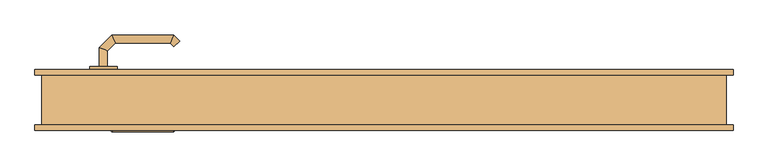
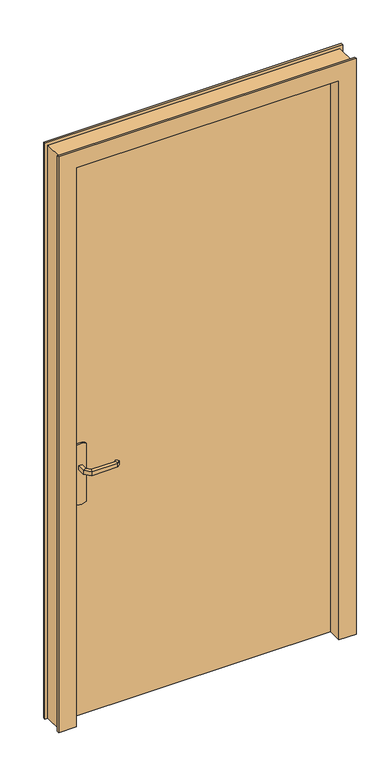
"""IFC4 building model written with IfcOpenShell, lengths in millimetres: door geometry, C&L Int. Simple vantail (dormant variable) : 93x204cm - (90) acoustique."""

from ifc_helpers import new_model, si_unit, point, frame, frame_2d, origin, origin_with_axes, place, context, project, spatial, polyline, circle_curve, ellipse_curve, trimmed, segment, composite_curve, outline, extrude, faceted_brep, source, transform, mapped, element, save
from ifc_brep_helpers import plane_surface, cylinder_surface, advanced_brep


def door_dd4d6bc0(model_context):
    return source(origin(), model_context, "Body", "SolidModel", [
        extrude(outline(composite_curve([segment(trimmed(circle_curve(frame_2d((804.6410162, -410.0)), 40.0), [point((770.0, -430.0))], [point((770.0, -390.0))], False, "CARTESIAN"), True, "CONTINUOUS"), segment(polyline([(770.0, -390.0), (980.0, -390.0)]), True, "CONTINUOUS"), segment(trimmed(circle_curve(frame_2d((945.3589838, -410.0)), 40.0), [point((980.0, -390.0))], [point((980.0, -430.0))], False, "CARTESIAN"), True, "CONTINUOUS"), segment(polyline([(980.0, -430.0), (770.0, -430.0)]), True, "CONTINUOUS")], self_intersect=False)), frame((0.0, 44.5, 0.0), z_axis=(0.0, 1.0, 0.0), x_axis=(0.0, 0.0, 1.0)), (0.0, 0.0, 1.0), 5.0),
        extrude(outline(composite_curve([segment(trimmed(circle_curve(frame_2d((945.3589838, -410.0)), 40.0), [point((980.0, -390.0))], [point((980.0, -430.0))], False, "CARTESIAN"), True, "CONTINUOUS"), segment(polyline([(980.0, -430.0), (770.0, -430.0)]), True, "CONTINUOUS"), segment(trimmed(circle_curve(frame_2d((804.6410162, -410.0)), 40.0), [point((770.0, -430.0))], [point((770.0, -390.0))], False, "CARTESIAN"), True, "CONTINUOUS"), segment(polyline([(770.0, -390.0), (980.0, -390.0)]), True, "CONTINUOUS")], self_intersect=False)), frame((0.0, -0.5, 0.0), z_axis=(0.0, 1.0, 0.0), x_axis=(0.0, 0.0, 1.0)), (0.0, 0.0, 1.0), 5.0),
        advanced_brep(
        [(-416.0, 49.5, 907.0), (-416.0, 49.5, 893.0), (-404.0, 49.5, 893.0), (-404.0, 49.5, 907.0), (-404.0, 72.180388, 907.0), (-416.0, 77.1509507, 907.0), (-404.0, 72.180388, 893.0), (-416.0, 77.1509507, 893.0), (-392.6522273, 83.5281607, 907.0), (-397.62279, 95.5281607, 907.0), (-392.6522273, 83.5281607, 893.0), (-397.62279, 95.5281607, 893.0), (-312.4666408, 83.5281607, 907.0), (-307.496078, 95.5281607, 907.0), (-312.4666408, 83.5281607, 893.0), (-307.496078, 95.5281607, 893.0), (-298.6676509, 86.6997336, 907.0), (-307.1529323, 78.2144522, 907.0), (-307.1529323, 78.2144522, 893.0), (-298.6676509, 86.6997336, 893.0)],
        [
            (0, 1),
            (1, 2, circle_curve(frame((-410.0, 49.5, 913.0457722), z_axis=(0.0, -1.0, 0.0), x_axis=(1.0, 0.0, 0.0)), 20.9244589)),
            (2, 3),
            (3, 0, circle_curve(frame((-410.0, 49.5, 886.9542278), z_axis=(0.0, -1.0, 0.0), x_axis=(1.0, 0.0, 0.0)), 20.9244589)),
            (3, 4),
            (4, 5, ellipse_curve(frame((-410.0, 74.6656693, 886.9542278), z_axis=(-0.3826834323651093, -0.9238795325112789, 0.0), x_axis=(0.9238795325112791, -0.38268343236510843, 0.0)), 22.6484711, 20.9244589)),
            (5, 0),
            (2, 6),
            (6, 4),
            (1, 7),
            (7, 6, ellipse_curve(frame((-410.0, 74.6656693, 913.0457722), z_axis=(-0.3826834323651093, -0.9238795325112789, 0.0), x_axis=(0.9238795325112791, -0.38268343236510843, 0.0)), 22.6484711, 20.9244589)),
            (5, 7),
            (4, 8),
            (8, 9, ellipse_curve(frame((-395.1375086, 89.5281607, 886.9542278), z_axis=(-0.9238795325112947, -0.38268343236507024, 0.0), x_axis=(0.3826834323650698, -0.9238795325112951, 0.0)), 22.6484711, 20.9244589)),
            (9, 5),
            (6, 10),
            (10, 8),
            (7, 11),
            (11, 10, ellipse_curve(frame((-395.1375086, 89.5281607, 913.0457722), z_axis=(-0.9238795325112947, -0.38268343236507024, 0.0), x_axis=(0.3826834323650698, -0.9238795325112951, 0.0)), 22.6484711, 20.9244589)),
            (9, 11),
            (8, 12),
            (12, 13, ellipse_curve(frame((-309.9813594, 89.5281607, 886.9542278), z_axis=(-0.9238795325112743, 0.3826834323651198, 0.0), x_axis=(-0.38268343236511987, -0.9238795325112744, 0.0)), 22.6484711, 20.9244589)),
            (13, 9),
            (10, 14),
            (14, 12),
            (11, 15),
            (15, 14, ellipse_curve(frame((-309.9813594, 89.5281607, 913.0457722), z_axis=(-0.9238795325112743, 0.3826834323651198, 0.0), x_axis=(-0.38268343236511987, -0.9238795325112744, 0.0)), 22.6484711, 20.9244589)),
            (13, 15),
            (16, 17, circle_curve(frame((-302.9102916, 82.4570929, 886.9542278), z_axis=(0.7071067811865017, -0.7071067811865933, 0.0), x_axis=(-0.7071067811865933, -0.7071067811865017, 0.0)), 20.9244589)),
            (17, 18),
            (18, 19, circle_curve(frame((-302.9102916, 82.4570929, 913.0457722), z_axis=(0.7071067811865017, -0.7071067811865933, 0.0), x_axis=(-0.7071067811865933, -0.7071067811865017, 0.0)), 20.9244589)),
            (19, 16),
            (12, 17),
            (16, 13),
            (14, 18),
            (15, 19),
        ],
        [
            plane_surface(frame((-419.2195445, 49.5, 900.0), z_axis=(0.0, -1.0, 0.0), x_axis=(0.0, 0.0, -1.0))),
            cylinder_surface(frame((-410.0, 49.5, 886.9542278), z_axis=(0.0, -1.0, 0.0), x_axis=(1.0, 0.0, 0.0)), 20.9244589),
            plane_surface(frame((-404.0, 49.5, 907.0), z_axis=(1.0, 0.0, 0.0), x_axis=(0.0, 1.0, 0.0))),
            cylinder_surface(frame((-410.0, 49.5, 913.0457722), z_axis=(0.0, -1.0, 0.0), x_axis=(1.0, 0.0, 0.0)), 20.9244589),
            plane_surface(frame((-416.0, 49.5, 893.0), z_axis=(-1.0, 0.0, 0.0), x_axis=(0.0, 1.0, 0.0))),
            cylinder_surface(frame((-410.0, 74.6656693, 886.9542278), z_axis=(-0.7071067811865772, -0.7071067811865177, 0.0), x_axis=(0.7071067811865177, -0.7071067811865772, 0.0)), 20.9244589),
            plane_surface(frame((-404.0, 72.180388, 907.0), z_axis=(0.7071067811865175, -0.7071067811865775, 0.0), x_axis=(0.7071067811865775, 0.7071067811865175, 0.0))),
            cylinder_surface(frame((-410.0, 74.6656693, 913.0457722), z_axis=(-0.7071067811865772, -0.7071067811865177, 0.0), x_axis=(0.7071067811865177, -0.7071067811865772, 0.0)), 20.9244589),
            plane_surface(frame((-416.0, 77.1509507, 893.0), z_axis=(-0.7071067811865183, 0.7071067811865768, 0.0), x_axis=(0.7071067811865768, 0.7071067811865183, 0.0))),
            cylinder_surface(frame((-395.1375086, 89.5281607, 886.9542278), z_axis=(-1.0, 0.0, 0.0), x_axis=(0.0, -1.0, 0.0)), 20.9244589),
            plane_surface(frame((-392.6522273, 83.5281607, 907.0), z_axis=(0.0, -1.0, 0.0), x_axis=(1.0, 0.0, 0.0))),
            cylinder_surface(frame((-395.1375086, 89.5281607, 913.0457722), z_axis=(-1.0, 0.0, 0.0), x_axis=(0.0, -1.0, 0.0)), 20.9244589),
            plane_surface(frame((-397.62279, 95.5281607, 893.0), z_axis=(0.0, 1.0, 0.0), x_axis=(1.0, 0.0, 0.0))),
            plane_surface(frame((-302.9102916, 82.4570929, 909.2195445), z_axis=(0.7071067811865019, -0.7071067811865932, 0.0), x_axis=(0.7071067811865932, 0.7071067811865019, 0.0))),
            cylinder_surface(frame((-309.9813594, 89.5281607, 886.9542278), z_axis=(-0.7071067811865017, 0.7071067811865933, 0.0), x_axis=(-0.7071067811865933, -0.7071067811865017, 0.0)), 20.9244589),
            plane_surface(frame((-312.4666408, 83.5281607, 907.0), z_axis=(-0.7071067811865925, -0.7071067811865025, 0.0), x_axis=(0.7071067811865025, -0.7071067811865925, 0.0))),
            cylinder_surface(frame((-309.9813594, 89.5281607, 913.0457722), z_axis=(-0.7071067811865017, 0.7071067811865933, 0.0), x_axis=(-0.7071067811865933, -0.7071067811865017, 0.0)), 20.9244589),
            plane_surface(frame((-307.496078, 95.5281607, 893.0), z_axis=(0.707106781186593, 0.7071067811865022, 0.0), x_axis=(0.7071067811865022, -0.707106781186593, 0.0))),
        ],
        [
            (0, [[1, 2, 3, 4]]),
            (1, [[5, 6, 7, -4]]),
            (2, [[8, 9, -5, -3]]),
            (3, [[10, 11, -8, -2]]),
            (4, [[-7, 12, -10, -1]]),
            (5, [[13, 14, 15, -6]]),
            (6, [[16, 17, -13, -9]]),
            (7, [[18, 19, -16, -11]]),
            (8, [[-15, 20, -18, -12]]),
            (9, [[21, 22, 23, -14]]),
            (10, [[24, 25, -21, -17]]),
            (11, [[26, 27, -24, -19]]),
            (12, [[-23, 28, -26, -20]]),
            (13, [[29, 30, 31, 32]]),
            (14, [[33, -29, 34, -22]]),
            (15, [[35, -30, -33, -25]]),
            (16, [[36, -31, -35, -27]]),
            (17, [[-34, -32, -36, -28]]),
        ],
    ),
        advanced_brep(
        [(-404.0, -0.5, 893.0), (-416.0, -0.5, 893.0), (-416.0, -0.5, 907.0), (-404.0, -0.5, 907.0), (-404.0, -22.9852045, 907.0), (-404.0, -22.9852045, 893.0), (-416.0, -27.9557673, 907.0), (-416.0, -27.9557673, 893.0), (-392.5147186, -34.4704859, 907.0), (-392.5147186, -34.4704859, 893.0), (-397.4852814, -46.4704859, 907.0), (-397.4852814, -46.4704859, 893.0), (-312.4394977, -34.4704859, 907.0), (-312.4394977, -34.4704859, 893.0), (-307.468935, -46.4704859, 907.0), (-307.468935, -46.4704859, 893.0), (-307.1257892, -29.1567774, 893.0), (-307.1257892, -29.1567774, 907.0), (-298.6405078, -37.6420588, 907.0), (-298.6405078, -37.6420588, 893.0)],
        [
            (0, 1, circle_curve(frame((-410.0, -0.5, 913.0457722), z_axis=(0.0, 1.0, 0.0), x_axis=(-1.0, 0.0, 0.0)), 20.9244589)),
            (1, 2),
            (2, 3, circle_curve(frame((-410.0, -0.5, 886.9542278), z_axis=(0.0, 1.0, 0.0), x_axis=(-1.0, 0.0, 0.0)), 20.9244589)),
            (3, 0),
            (3, 4),
            (4, 5),
            (5, 0),
            (2, 6),
            (6, 4, ellipse_curve(frame((-410.0, -25.4704859, 886.9542278), z_axis=(-0.3826834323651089, 0.9238795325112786, 0.0), x_axis=(0.9238795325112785, 0.3826834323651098, 0.0)), 22.6484711, 20.9244589)),
            (1, 7),
            (7, 6),
            (5, 7, ellipse_curve(frame((-410.0, -25.4704859, 913.0457722), z_axis=(-0.3826834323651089, 0.9238795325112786, 0.0), x_axis=(0.9238795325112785, 0.3826834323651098, 0.0)), 22.6484711, 20.9244589)),
            (4, 8),
            (8, 9),
            (9, 5),
            (6, 10),
            (10, 8, ellipse_curve(frame((-395.0, -40.4704859, 886.9542278), z_axis=(-0.9238795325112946, 0.38268343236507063, 0.0), x_axis=(0.3826834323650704, 0.9238795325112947, 0.0)), 22.6484711, 20.9244589)),
            (7, 11),
            (11, 10),
            (9, 11, ellipse_curve(frame((-395.0, -40.4704859, 913.0457722), z_axis=(-0.9238795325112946, 0.38268343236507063, 0.0), x_axis=(0.3826834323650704, 0.9238795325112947, 0.0)), 22.6484711, 20.9244589)),
            (8, 12),
            (12, 13),
            (13, 9),
            (10, 14),
            (14, 12, ellipse_curve(frame((-309.9542163, -40.4704859, 886.9542278), z_axis=(-0.9238795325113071, -0.38268343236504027, 0.0), x_axis=(-0.38268343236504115, 0.9238795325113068, 0.0)), 22.6484711, 20.9244589)),
            (11, 15),
            (15, 14),
            (13, 15, ellipse_curve(frame((-309.9542163, -40.4704859, 913.0457722), z_axis=(-0.9238795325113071, -0.38268343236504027, 0.0), x_axis=(-0.38268343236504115, 0.9238795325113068, 0.0)), 22.6484711, 20.9244589)),
            (16, 17),
            (17, 18, circle_curve(frame((-302.8831485, -33.3994181, 886.9542278), z_axis=(0.7071067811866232, 0.7071067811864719, 0.0), x_axis=(0.7071067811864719, -0.7071067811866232, 0.0)), 20.9244589)),
            (18, 19),
            (19, 16, circle_curve(frame((-302.8831485, -33.3994181, 913.0457722), z_axis=(0.7071067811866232, 0.7071067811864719, 0.0), x_axis=(0.7071067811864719, -0.7071067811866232, 0.0)), 20.9244589)),
            (12, 17),
            (16, 13),
            (14, 18),
            (15, 19),
        ],
        [
            plane_surface(frame((-419.2195445, -0.5, 900.0), z_axis=(0.0, 1.0, 0.0), x_axis=(0.0, 0.0, 1.0))),
            plane_surface(frame((-404.0, -0.5, 893.0), z_axis=(1.0, 0.0, 0.0), x_axis=(0.0, -1.0, 0.0))),
            cylinder_surface(frame((-410.0, -0.5, 886.9542278), z_axis=(0.0, 1.0, 0.0), x_axis=(-1.0, 0.0, 0.0)), 20.9244589),
            plane_surface(frame((-416.0, -0.5, 907.0), z_axis=(-1.0, 0.0, 0.0), x_axis=(0.0, -1.0, 0.0))),
            cylinder_surface(frame((-410.0, -0.5, 913.0457722), z_axis=(0.0, 1.0, 0.0), x_axis=(-1.0, 0.0, 0.0)), 20.9244589),
            plane_surface(frame((-404.0, -22.9852045, 893.0), z_axis=(0.707106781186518, 0.707106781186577, 0.0), x_axis=(0.707106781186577, -0.707106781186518, 0.0))),
            cylinder_surface(frame((-410.0, -25.4704859, 886.9542278), z_axis=(-0.7071067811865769, 0.7071067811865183, 0.0), x_axis=(-0.7071067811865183, -0.7071067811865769, 0.0)), 20.9244589),
            plane_surface(frame((-416.0, -27.9557673, 907.0), z_axis=(-0.7071067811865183, -0.7071067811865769, 0.0), x_axis=(0.7071067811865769, -0.7071067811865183, 0.0))),
            cylinder_surface(frame((-410.0, -25.4704859, 913.0457722), z_axis=(-0.7071067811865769, 0.7071067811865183, 0.0), x_axis=(-0.7071067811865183, -0.7071067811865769, 0.0)), 20.9244589),
            plane_surface(frame((-392.5147186, -34.4704859, 893.0), z_axis=(0.0, 1.0, 0.0), x_axis=(1.0, 0.0, 0.0))),
            cylinder_surface(frame((-395.0, -40.4704859, 886.9542278), z_axis=(-1.0, 0.0, 0.0), x_axis=(0.0, -1.0, 0.0)), 20.9244589),
            plane_surface(frame((-397.4852814, -46.4704859, 907.0), z_axis=(0.0, -1.0, 0.0), x_axis=(1.0, 0.0, 0.0))),
            cylinder_surface(frame((-395.0, -40.4704859, 913.0457722), z_axis=(-1.0, 0.0, 0.0), x_axis=(0.0, -1.0, 0.0)), 20.9244589),
            plane_surface(frame((-302.8831485, -33.3994181, 890.7804555), z_axis=(0.7071067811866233, 0.7071067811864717, 0.0), x_axis=(0.7071067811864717, -0.7071067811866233, 0.0))),
            plane_surface(frame((-312.4394977, -34.4704859, 893.0), z_axis=(-0.7071067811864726, 0.7071067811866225, 0.0), x_axis=(0.7071067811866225, 0.7071067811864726, 0.0))),
            cylinder_surface(frame((-309.9542163, -40.4704859, 886.9542278), z_axis=(-0.7071067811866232, -0.7071067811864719, 0.0), x_axis=(0.7071067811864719, -0.7071067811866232, 0.0)), 20.9244589),
            plane_surface(frame((-307.468935, -46.4704859, 907.0), z_axis=(0.7071067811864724, -0.7071067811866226, 0.0), x_axis=(0.7071067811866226, 0.7071067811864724, 0.0))),
            cylinder_surface(frame((-309.9542163, -40.4704859, 913.0457722), z_axis=(-0.7071067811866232, -0.7071067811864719, 0.0), x_axis=(0.7071067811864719, -0.7071067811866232, 0.0)), 20.9244589),
        ],
        [
            (0, [[1, 2, 3, 4]]),
            (1, [[5, 6, 7, -4]]),
            (2, [[8, 9, -5, -3]]),
            (3, [[10, 11, -8, -2]]),
            (4, [[-7, 12, -10, -1]]),
            (5, [[13, 14, 15, -6]]),
            (6, [[16, 17, -13, -9]]),
            (7, [[18, 19, -16, -11]]),
            (8, [[-15, 20, -18, -12]]),
            (9, [[21, 22, 23, -14]]),
            (10, [[24, 25, -21, -17]]),
            (11, [[26, 27, -24, -19]]),
            (12, [[-23, 28, -26, -20]]),
            (13, [[29, 30, 31, 32]]),
            (14, [[33, -29, 34, -22]]),
            (15, [[35, -30, -33, -25]]),
            (16, [[36, -31, -35, -27]]),
            (17, [[-34, -32, -36, -28]]),
        ],
    ),
        faceted_brep([(-500.0, 36.5, 0.0), (-510.0, 36.5, 0.0), (-510.0, 44.5, 0.0), (-465.0, 44.5, 0.0), (-465.0, 4.5, 0.0), (-450.0, 4.5, 0.0), (-450.0, -44.5, 0.0), (-510.0, -44.5, 0.0), (-510.0, -36.5, 0.0), (-500.0, -36.5, 0.0), (-500.0, -36.5, 2075.0), (-500.0, 36.5, 2075.0), (-510.0, -36.5, 2085.0), (510.0, -36.5, 2085.0), (510.0, -36.5, 0.0), (500.0, -36.5, 0.0), (500.0, -36.5, 2075.0), (-510.0, -44.5, 2085.0), (-450.0, -44.5, 2025.0), (450.0, -44.5, 2025.0), (450.0, -44.5, 0.0), (510.0, -44.5, 0.0), (510.0, -44.5, 2085.0), (-450.0, 4.5, 2025.0), (-465.0, 4.5, 2040.0), (465.0, 4.5, 2040.0), (465.0, 4.5, 0.0), (450.0, 4.5, 0.0), (450.0, 4.5, 2025.0), (-465.0, 44.5, 2040.0), (-510.0, 44.5, 2085.0), (510.0, 44.5, 2085.0), (510.0, 44.5, 0.0), (465.0, 44.5, 0.0), (465.0, 44.5, 2040.0), (-510.0, 36.5, 2085.0), (500.0, 36.5, 2075.0), (500.0, 36.5, 0.0), (510.0, 36.5, 0.0), (510.0, 36.5, 2085.0)], [[[0, 1, 2, 3, 4, 5, 6, 7, 8, 9]], [[9, 10, 11, 0]], [[8, 12, 13, 14, 15, 16, 10, 9]], [[7, 17, 12, 8]], [[6, 18, 19, 20, 21, 22, 17, 7]], [[5, 23, 18, 6]], [[4, 24, 25, 26, 27, 28, 23, 5]], [[3, 29, 24, 4]], [[2, 30, 31, 32, 33, 34, 29, 3]], [[1, 35, 30, 2]], [[0, 11, 36, 37, 38, 39, 35, 1]], [[10, 16, 36, 11]], [[17, 22, 13, 12]], [[23, 28, 19, 18]], [[29, 34, 25, 24]], [[35, 39, 31, 30]], [[37, 15, 14, 21, 20, 27, 26, 33, 32, 38]], [[16, 15, 37, 36]], [[22, 21, 14, 13]], [[28, 27, 20, 19]], [[34, 33, 26, 25]], [[39, 38, 32, 31]]]),
        extrude(outline(polyline([(465.0, 44.5), (465.0, 4.5), (-465.0, 4.5), (-465.0, 44.5), (465.0, 44.5)])), origin_with_axes(), (0.0, 0.0, 1.0), 2040.0),
    ])


if __name__ == "__main__":
    model = new_model("IFC4")
    model_context = context("Model", 3, world=origin())
    ifc_project = project(units=[si_unit("LENGTHUNIT", "METRE", prefix="MILLI")], contexts=[model_context])
    site = spatial("IfcSite", under=ifc_project)
    building = spatial("IfcBuilding", under=site)
    placement = place(None, origin())
    door_shape = door_dd4d6bc0(model_context)
    element("IfcDoor", 1, ObjectType="C&L Int. Simple vantail (dormant variable) : 93x204cm - (90) acoustique", at=placement, inside=building, context=model_context, shape_type="MappedRepresentation", body=[
        mapped(door_shape, transform((0.0, 0.0, 0.0), x_axis=(1.0, 0.0, 0.0), y_axis=(0.0, 1.0, 0.0), z_axis=(0.0, 0.0, 1.0))),
    ])
    save(model, "model.ifc")
